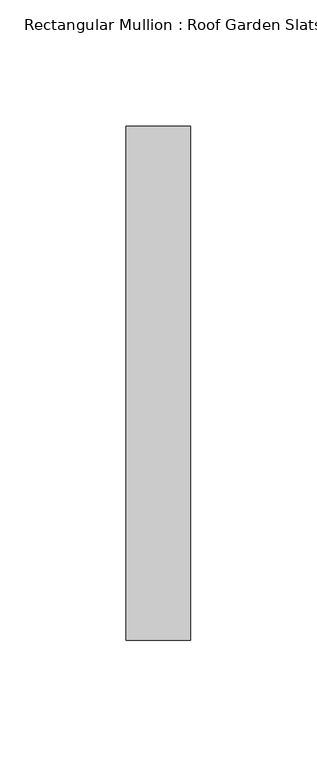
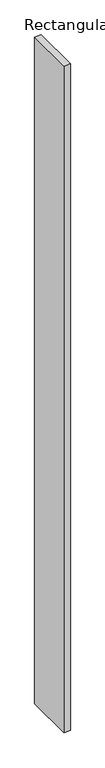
"""IFC4 building model written with IfcOpenShell, lengths in millimetres: member geometry, Rectangular Mullion : Roof Garden Slats."""

from ifc_helpers import new_model, si_unit, frame, origin, place, context, project, spatial, polyline, outline, extrude, source, transform, mapped, element, save


def rectangular_mullion_roof_garden_slats_960e74be(model_context):
    return source(origin(), model_context, "Body", "SweptSolid", [
        extrude(outline(polyline([(12.7, 139.7), (12.7, -63.5), (-12.7, -63.5), (-12.7, 139.7), (12.7, 139.7)])), frame((0.0, 0.0, -2826.5849989), z_axis=(0.0, 0.0, 1.0), x_axis=(1.0, 0.0, 0.0)), (0.0, 0.0, 1.0), 2826.5849989),
    ])


if __name__ == "__main__":
    model = new_model("IFC4")
    model_context = context("Model", 3, world=origin())
    ifc_project = project(units=[si_unit("LENGTHUNIT", "METRE", prefix="MILLI")], contexts=[model_context])
    site = spatial("IfcSite", under=ifc_project)
    building = spatial("IfcBuilding", under=site)
    placement = place(None, origin())
    rectangular_mullion_roof_garden_slats_shape = rectangular_mullion_roof_garden_slats_960e74be(model_context)
    element("IfcMember", 1, ObjectType="Rectangular Mullion : Roof Garden Slats", at=placement, inside=building, context=model_context, shape_type="MappedRepresentation", body=[
        mapped(rectangular_mullion_roof_garden_slats_shape, transform((0.0, 0.0, 0.0), x_axis=(1.0, 0.0, 0.0), y_axis=(0.0, 1.0, 0.0), z_axis=(0.0, 0.0, 1.0))),
    ])
    save(model, "model.ifc")
